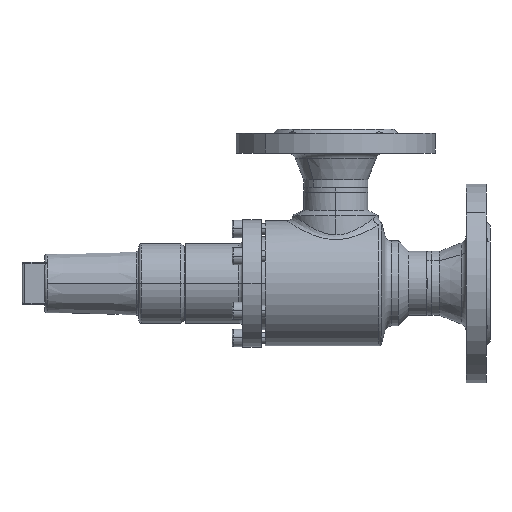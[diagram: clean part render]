
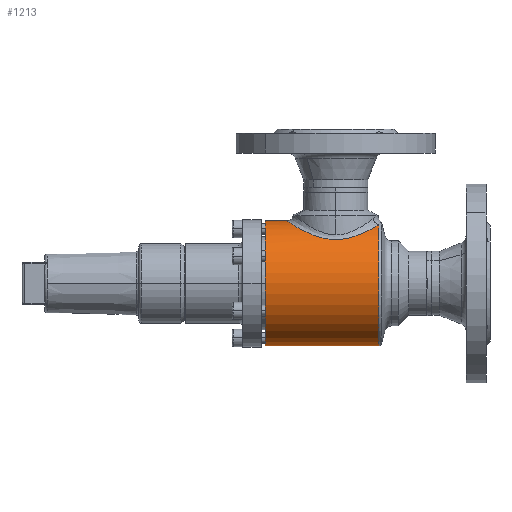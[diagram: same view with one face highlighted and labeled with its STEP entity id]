
A CAD part, left-side view. The second image highlights one B-rep face of the part: STEP entity #1213.
In plain terms, the highlighted cylindrical face has radius 47 mm (diameter 94 mm), a partial arc.
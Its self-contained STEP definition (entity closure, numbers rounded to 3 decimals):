
#583 = LINE ( 'NONE', #584, #585 ) ;
#584 = CARTESIAN_POINT ( 'NONE',  ( 0., -91., -47. ) ) ;
#585 = VECTOR ( 'NONE', #589, 1000. ) ;
#589 = DIRECTION ( 'NONE',  ( 0., 1., 0. ) ) ;
#764 = CARTESIAN_POINT ( 'NONE',  ( 0., 0., -47. ) ) ;
#17490 = ORIENTED_EDGE ( 'NONE', *, *, #7698, .T. ) ;
#1213 = ADVANCED_FACE ( 'NONE', ( #9142 ), #9143, .T. ) ;
#1543 = CARTESIAN_POINT ( 'NONE',  ( -16.073, -85.446, 44.166 ) ) ;
#2379 = CARTESIAN_POINT ( 'NONE',  ( 0., -85.446, -47. ) ) ;
#2946 = EDGE_CURVE ( 'NONE', #8501, #3179, #583, .T. ) ;
#3179 = VERTEX_POINT ( 'NONE', #764 ) ;
#3389 = CIRCLE ( 'NONE', #3390, 47. ) ;
#3390 = AXIS2_PLACEMENT_3D ( 'NONE', #3391, #3396, #3397 ) ;
#3391 = CARTESIAN_POINT ( 'NONE',  ( 0., 0., 0. ) ) ;
#3396 = DIRECTION ( 'NONE',  ( 0., 1., 0. ) ) ;
#3397 = DIRECTION ( 'NONE',  ( 0., 0., 1. ) ) ;
#3605 = CARTESIAN_POINT ( 'NONE',  ( 0., -16., 47. ) ) ;
#3823 = LINE ( 'NONE', #3824, #3828 ) ;
#3824 = CARTESIAN_POINT ( 'NONE',  ( 0., -91., 47. ) ) ;
#3828 = VECTOR ( 'NONE', #3829, 1000. ) ;
#3829 = DIRECTION ( 'NONE',  ( 0., 1., 0. ) ) ;
#3863 = EDGE_LOOP ( 'NONE', ( #12992, #4575, #17490, #11669, #6021 ) ) ;
#4575 = ORIENTED_EDGE ( 'NONE', *, *, #15165, .T. ) ;
#4851 = CIRCLE ( 'NONE', #4852, 47. ) ;
#4852 = AXIS2_PLACEMENT_3D ( 'NONE', #4853, #4854, #4857 ) ;
#4853 = CARTESIAN_POINT ( 'NONE',  ( 0., -85.446, 0. ) ) ;
#4854 = DIRECTION ( 'NONE',  ( 0., 1., 0. ) ) ;
#4857 = DIRECTION ( 'NONE',  ( 0., 0., -1. ) ) ;
#6021 = ORIENTED_EDGE ( 'NONE', *, *, #9083, .F. ) ;
#7233 = CARTESIAN_POINT ( 'NONE',  ( 0., 0., 47. ) ) ;
#7698 = EDGE_CURVE ( 'NONE', #12782, #13887, #7906, .T. ) ;
#7906 = B_SPLINE_CURVE_WITH_KNOTS ( 'NONE', 3,
 ( #7907, #7908, #7909, #7910, #7911, #7912, #7916, #7917, #7918, #7919, #7920, #7921, #7922, #7923, #7924, #7925, #7926, #7927, #7928, #7929, #7930, #7931, #7933, #7934, #7935, #7936, #7937, #7938, #7939, #7940, #7941, #7942, #7943, #7944, #7945, #7946, #7947, #7948, #7950, #7951, #7952, #7953, #7954, #7955, #7956, #7957, #7958, #7959, #7960, #7961, #7962, #7963, #7964, #7965, #7968, #7969, #7970, #7971, #7972, #7973, #7974, #7975 ),
 .UNSPECIFIED., .F., .F.,
 ( 4, 2, 2, 2, 2, 2, 2, 2, 2, 2, 2, 2, 2, 2, 2, 2, 2, 2, 2, 2, 2, 2, 2, 2, 2, 2, 2, 2, 2, 2, 4 ),
 ( 0.017, 0.023, 0.026, 0.029, 0.035, 0.039, 0.04, 0.042, 0.048, 0.051, 0.052, 0.054, 0.06, 0.063, 0.066, 0.069, 0.072, 0.078, 0.081, 0.083, 0.084, 0.09, 0.093, 0.095, 0.096, 0.103, 0.106, 0.107, 0.109, 0.112, 0.115 ),
 .UNSPECIFIED. ) ;
#7907 = CARTESIAN_POINT ( 'NONE',  ( -16.073, -85.446, 44.166 ) ) ;
#7908 = CARTESIAN_POINT ( 'NONE',  ( -17.749, -84.43, 43.556 ) ) ;
#7909 = CARTESIAN_POINT ( 'NONE',  ( -19.293, -83.29, 42.887 ) ) ;
#7910 = CARTESIAN_POINT ( 'NONE',  ( -21.444, -81.41, 41.831 ) ) ;
#7911 = CARTESIAN_POINT ( 'NONE',  ( -22.133, -80.755, 41.469 ) ) ;
#7912 = CARTESIAN_POINT ( 'NONE',  ( -23.459, -79.389, 40.734 ) ) ;
#7916 = CARTESIAN_POINT ( 'NONE',  ( -24.096, -78.676, 40.359 ) ) ;
#7917 = CARTESIAN_POINT ( 'NONE',  ( -25.907, -76.48, 39.24 ) ) ;
#7918 = CARTESIAN_POINT ( 'NONE',  ( -26.989, -74.936, 38.497 ) ) ;
#7919 = CARTESIAN_POINT ( 'NONE',  ( -28.44, -72.491, 37.424 ) ) ;
#7920 = CARTESIAN_POINT ( 'NONE',  ( -28.894, -71.655, 37.073 ) ) ;
#7921 = CARTESIAN_POINT ( 'NONE',  ( -29.533, -70.366, 36.563 ) ) ;
#7922 = CARTESIAN_POINT ( 'NONE',  ( -29.739, -69.93, 36.396 ) ) ;
#7923 = CARTESIAN_POINT ( 'NONE',  ( -30.137, -69.047, 36.067 ) ) ;
#7924 = CARTESIAN_POINT ( 'NONE',  ( -30.328, -68.599, 35.906 ) ) ;
#7925 = CARTESIAN_POINT ( 'NONE',  ( -31.243, -66.344, 35.126 ) ) ;
#7926 = CARTESIAN_POINT ( 'NONE',  ( -31.842, -64.482, 34.576 ) ) ;
#7927 = CARTESIAN_POINT ( 'NONE',  ( -32.541, -61.591, 33.914 ) ) ;
#7928 = CARTESIAN_POINT ( 'NONE',  ( -32.74, -60.61, 33.721 ) ) ;
#7929 = CARTESIAN_POINT ( 'NONE',  ( -32.986, -59.111, 33.48 ) ) ;
#7930 = CARTESIAN_POINT ( 'NONE',  ( -33.059, -58.608, 33.408 ) ) ;
#7931 = CARTESIAN_POINT ( 'NONE',  ( -33.186, -57.603, 33.282 ) ) ;
#7933 = CARTESIAN_POINT ( 'NONE',  ( -33.239, -57.1, 33.229 ) ) ;
#7934 = CARTESIAN_POINT ( 'NONE',  ( -33.462, -54.583, 33.006 ) ) ;
#7935 = CARTESIAN_POINT ( 'NONE',  ( -33.49, -52.562, 32.976 ) ) ;
#7936 = CARTESIAN_POINT ( 'NONE',  ( -33.307, -49.52, 33.161 ) ) ;
#7937 = CARTESIAN_POINT ( 'NONE',  ( -33.207, -48.498, 33.262 ) ) ;
#7938 = CARTESIAN_POINT ( 'NONE',  ( -32.933, -46.49, 33.532 ) ) ;
#7939 = CARTESIAN_POINT ( 'NONE',  ( -32.761, -45.501, 33.702 ) ) ;
#7940 = CARTESIAN_POINT ( 'NONE',  ( -32.346, -43.55, 34.1 ) ) ;
#7941 = CARTESIAN_POINT ( 'NONE',  ( -32.103, -42.587, 34.33 ) ) ;
#7942 = CARTESIAN_POINT ( 'NONE',  ( -31.549, -40.688, 34.839 ) ) ;
#7943 = CARTESIAN_POINT ( 'NONE',  ( -31.237, -39.749, 35.121 ) ) ;
#7944 = CARTESIAN_POINT ( 'NONE',  ( -30.211, -37.009, 36.016 ) ) ;
#7945 = CARTESIAN_POINT ( 'NONE',  ( -29.406, -35.272, 36.683 ) ) ;
#7946 = CARTESIAN_POINT ( 'NONE',  ( -28.021, -32.781, 37.738 ) ) ;
#7947 = CARTESIAN_POINT ( 'NONE',  ( -27.529, -31.97, 38.099 ) ) ;
#7948 = CARTESIAN_POINT ( 'NONE',  ( -26.744, -30.781, 38.65 ) ) ;
#7950 = CARTESIAN_POINT ( 'NONE',  ( -26.475, -30.389, 38.835 ) ) ;
#7951 = CARTESIAN_POINT ( 'NONE',  ( -25.92, -29.615, 39.208 ) ) ;
#7952 = CARTESIAN_POINT ( 'NONE',  ( -25.634, -29.233, 39.396 ) ) ;
#7953 = CARTESIAN_POINT ( 'NONE',  ( -24.175, -27.357, 40.33 ) ) ;
#7954 = CARTESIAN_POINT ( 'NONE',  ( -22.902, -25.964, 41.072 ) ) ;
#7955 = CARTESIAN_POINT ( 'NONE',  ( -20.822, -24.029, 42.143 ) ) ;
#7956 = CARTESIAN_POINT ( 'NONE',  ( -20.099, -23.411, 42.494 ) ) ;
#7957 = CARTESIAN_POINT ( 'NONE',  ( -18.969, -22.523, 43.004 ) ) ;
#7958 = CARTESIAN_POINT ( 'NONE',  ( -18.584, -22.235, 43.172 ) ) ;
#7959 = CARTESIAN_POINT ( 'NONE',  ( -17.798, -21.671, 43.502 ) ) ;
#7960 = CARTESIAN_POINT ( 'NONE',  ( -17.396, -21.396, 43.664 ) ) ;
#7961 = CARTESIAN_POINT ( 'NONE',  ( -15.356, -20.064, 44.455 ) ) ;
#7962 = CARTESIAN_POINT ( 'NONE',  ( -13.635, -19.147, 45.018 ) ) ;
#7963 = CARTESIAN_POINT ( 'NONE',  ( -10.906, -18.006, 45.727 ) ) ;
#7964 = CARTESIAN_POINT ( 'NONE',  ( -9.972, -17.666, 45.94 ) ) ;
#7965 = CARTESIAN_POINT ( 'NONE',  ( -8.53, -17.219, 46.222 ) ) ;
#7968 = CARTESIAN_POINT ( 'NONE',  ( -8.041, -17.081, 46.31 ) ) ;
#7969 = CARTESIAN_POINT ( 'NONE',  ( -7.058, -16.829, 46.47 ) ) ;
#7970 = CARTESIAN_POINT ( 'NONE',  ( -6.563, -16.715, 46.542 ) ) ;
#7971 = CARTESIAN_POINT ( 'NONE',  ( -5.066, -16.41, 46.737 ) ) ;
#7972 = CARTESIAN_POINT ( 'NONE',  ( -4.049, -16.255, 46.836 ) ) ;
#7973 = CARTESIAN_POINT ( 'NONE',  ( -2.024, -16.051, 46.967 ) ) ;
#7974 = CARTESIAN_POINT ( 'NONE',  ( -1.011, -16., 47. ) ) ;
#7975 = CARTESIAN_POINT ( 'NONE',  ( 0., -16., 47. ) ) ;
#8501 = VERTEX_POINT ( 'NONE', #2379 ) ;
#9083 = EDGE_CURVE ( 'NONE', #3179, #16010, #3389, .T. ) ;
#9142 = FACE_OUTER_BOUND ( 'NONE', #3863, .T. ) ;
#9143 = CYLINDRICAL_SURFACE ( 'NONE', #9144, 47. ) ;
#9144 = AXIS2_PLACEMENT_3D ( 'NONE', #9145, #9146, #9147 ) ;
#9145 = CARTESIAN_POINT ( 'NONE',  ( 0., -91., 0. ) ) ;
#9146 = DIRECTION ( 'NONE',  ( 0., 1., 0. ) ) ;
#9147 = DIRECTION ( 'NONE',  ( 0., 0., 1. ) ) ;
#11669 = ORIENTED_EDGE ( 'NONE', *, *, #14108, .T. ) ;
#12782 = VERTEX_POINT ( 'NONE', #1543 ) ;
#12992 = ORIENTED_EDGE ( 'NONE', *, *, #2946, .F. ) ;
#13887 = VERTEX_POINT ( 'NONE', #3605 ) ;
#14108 = EDGE_CURVE ( 'NONE', #13887, #16010, #3823, .T. ) ;
#15165 = EDGE_CURVE ( 'NONE', #8501, #12782, #4851, .T. ) ;
#16010 = VERTEX_POINT ( 'NONE', #7233 ) ;
